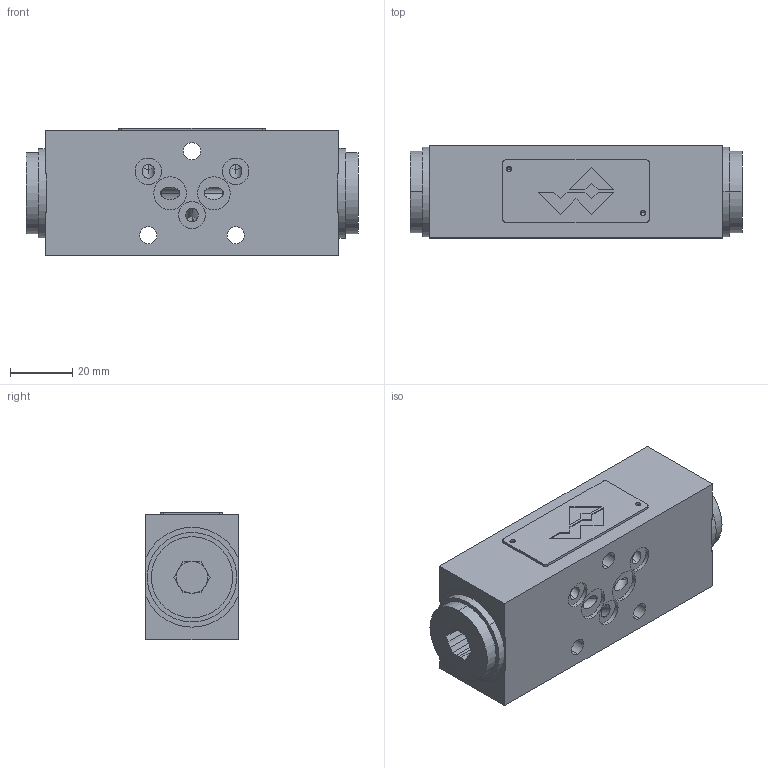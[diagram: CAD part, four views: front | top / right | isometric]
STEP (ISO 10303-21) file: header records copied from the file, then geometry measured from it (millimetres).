
FILE_DESCRIPTION (( 'STEP AP214' ), '1' );
FILE_NAME ('B.ERV.4.STEP', '2022-03-10T08:01:54', ( '' ), ( '' ), 'SwSTEP 2.0', 'SolidWorks 2020', '' );
FILE_SCHEMA (( 'AUTOMOTIVE_DESIGN' ));
Length unit declared in the file: millimetre
Products named in the file (1): B.ERV.4
Bounding box: 106.4 x 29.5 x 40.8 mm (x, y, z)
Volume: 113382.8 mm3; surface area: 19799.2 mm2
Topology: 1 solids, 1 shells, 173 faces, 441 edges, 274 vertices
Faces by surface type: plane 83, cylinder 66, cone 24
Entity records: 7000 total; most frequent: CARTESIAN_POINT 925, DIRECTION 881, ORIENTED_EDGE 834, EDGE_CURVE 417, AXIS2_PLACEMENT_3D 310, VERTEX_POINT 274, LINE 261, VECTOR 261
